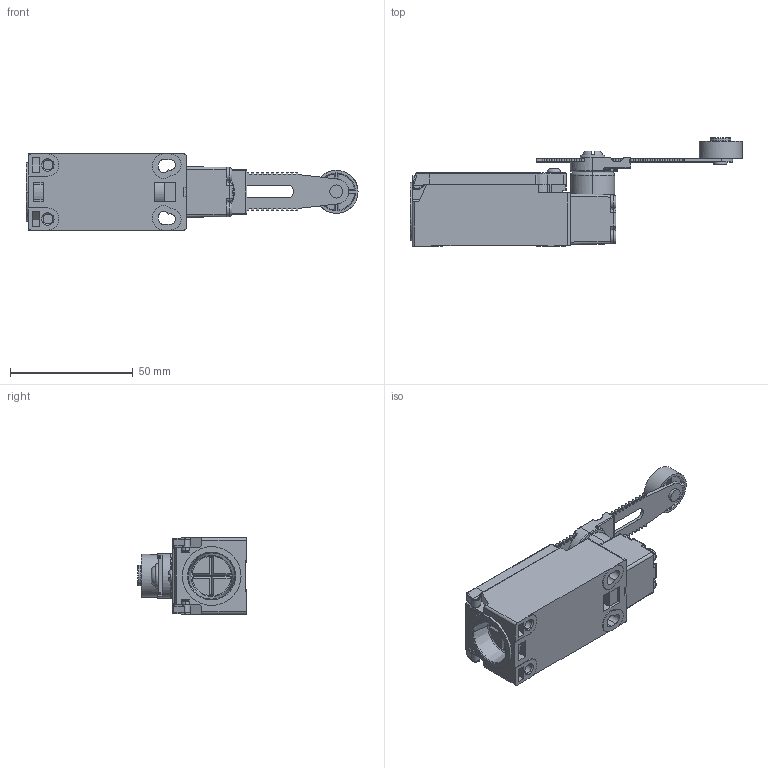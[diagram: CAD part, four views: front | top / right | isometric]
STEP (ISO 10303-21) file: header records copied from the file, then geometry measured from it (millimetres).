
FILE_DESCRIPTION(('FreeCAD Model'),'2;1');
FILE_NAME('Open CASCADE Shape Model','2026-09-09T14:14:13',(''),(''), 'Open CASCADE STEP processor 7.8','FreeCAD','Unknown');
FILE_SCHEMA(('AUTOMOTIVE_DESIGN { 1 0 10303 214 1 1 1 1 }'));
Length unit declared in the file: millimetre
Products named in the file (21): FS9608; Compound005; Compound002; FS; COMPOUND013; COMPOUND; COMPOUND001; COMPOUND002; COMPOUND003; COMPOUND004; COMPOUND005; COMPOUND006; COMPOUND007; COMPOUND008; COMPOUND009; COMPOUND010; COMPOUND011; COMPOUND012; COMPOUND016; COMPOUND014; COMPOUND015
Assembly tree (20 placements, depth 4):
  FS9608
    Compound005
      Compound002
    FS
      COMPOUND013
        COMPOUND
        COMPOUND001
        COMPOUND002
        COMPOUND003
        COMPOUND004
        COMPOUND005
        COMPOUND006
        COMPOUND007
        COMPOUND008
        COMPOUND009
        COMPOUND010
        COMPOUND011
        COMPOUND012
      COMPOUND016
        COMPOUND014
        COMPOUND015
Bounding box: 135.12 x 44.2 x 31.02 mm (x, y, z)
Volume: 32485.3 mm3; surface area: 34137.6 mm2
Topology: 13 solids, 16 shells, 1764 faces, 4707 edges, 3025 vertices
Faces by surface type: plane 917, cylinder 616, bspline 95, torus 64, cone 50, sphere 22
Full cylindrical faces by diameter (mm): 2.8 x7, 3 x20, 3.6 x1, 3.9 x1, 4.1 x1, 5.3 x1, 5.5 x4, 8.4 x1
Entity records: 83520 total; most frequent: CARTESIAN_POINT 39106, ORIENTED_EDGE 9387, DIRECTION 9042, EDGE_CURVE 4707, AXIS2_PLACEMENT_3D 3113, VERTEX_POINT 3025, LINE 2816, VECTOR 2816
